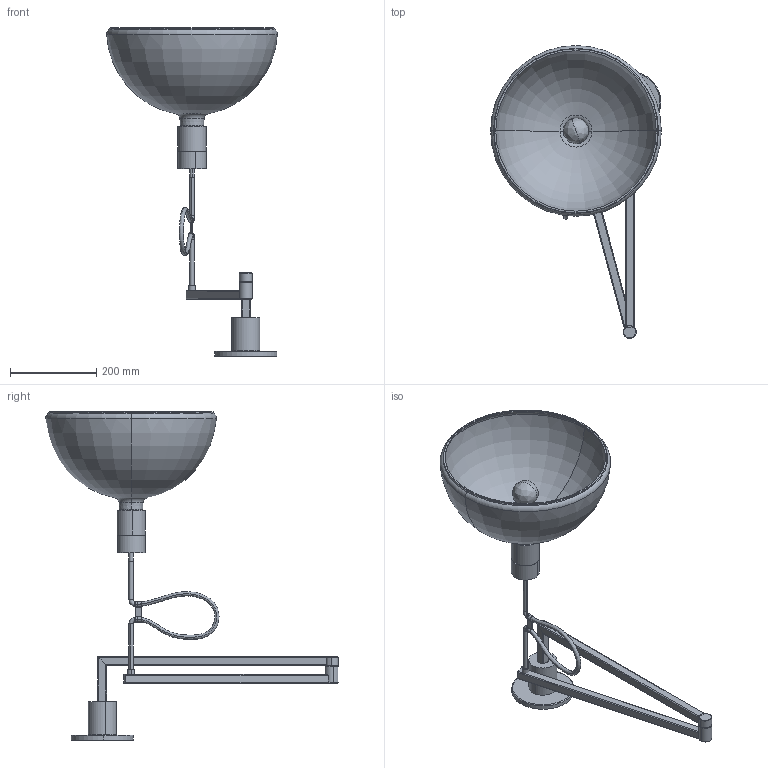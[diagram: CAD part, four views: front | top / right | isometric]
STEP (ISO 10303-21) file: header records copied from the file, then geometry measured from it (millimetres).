
FILE_DESCRIPTION (( 'STEP AP214' ), '1' );
FILE_NAME ('3D_AS41C.STEP', '2018-02-22T13:55:45', ( 'Utente' ), ( '' ), 'SwSTEP 2.0', 'SolidWorks 2016', '' );
FILE_SCHEMA (( 'AUTOMOTIVE_DESIGN' ));
Length unit declared in the file: millimetre
Products named in the file (20): Parte3; 761ALBEHW211; 083COME27016; 061ALB700200; 010ALB701000; 744ALBEHW521; 010ALB705000; 010ALB703210; 010ALB703410; 010ALB703410-tubo-rett-d; 010ALB703410-cilindro-snodo; 010ALB703310; 010ALB703310-tubo-rett-c; 010ALB703310-tubo-rett-l; 010ALB703310-perno-snodo; 010ALB704900; 3D_AS41C; Parte2; Parte1; _U3
Assembly tree (19 placements, depth 4):
  3D_AS41C
    744ALBEHW521
      010ALB704900
      010ALB703310
        010ALB703310-perno-snodo
        010ALB703310-tubo-rett-l
        010ALB703310-tubo-rett-c
      010ALB703410
        010ALB703410-cilindro-snodo
        010ALB703410-tubo-rett-d
      010ALB703210
      010ALB705000
    761ALBEHW211
      010ALB701000
      061ALB700200
      083COME27016
    Parte1
    _U3
    Parte2
    Parte3
Bounding box: 394.9 x 676.75 x 759.25 mm (x, y, z)
Volume: 2289220.9 mm3; surface area: 765255.8 mm2
Topology: 15 solids, 15 shells, 240 faces, 547 edges, 346 vertices
Faces by surface type: cylinder 91, plane 51, torus 30, cone 26, bspline 26, sphere 16
Entity records: 13173 total; most frequent: CARTESIAN_POINT 7034, DIRECTION 1208, ORIENTED_EDGE 1090, EDGE_CURVE 545, AXIS2_PLACEMENT_3D 522, VERTEX_POINT 346, CIRCLE 282, EDGE_LOOP 263
